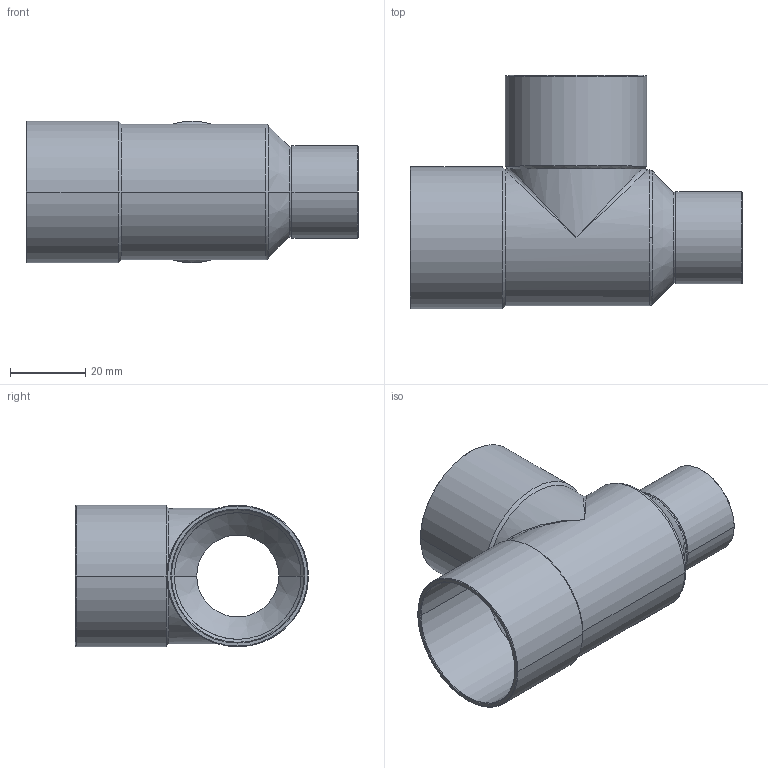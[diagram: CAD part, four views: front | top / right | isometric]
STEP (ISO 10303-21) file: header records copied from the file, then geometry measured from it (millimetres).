
FILE_DESCRIPTION((''),'2;1');
FILE_NAME('G:\Technics\CAD\Bauteile\15130\15130353522.stp','2005-11-03T13:43:00',('boden'),(''),'Autodesk Inventor 8','Autodesk Inventor 8','');
FILE_SCHEMA(('AUTOMOTIVE_DESIGN { 1 0 10303 214 1 1 1 1 }'));
Length unit declared in the file: millimetre
Products named in the file (1): 15130353522
Bounding box: 88 x 61.77 x 37.55 mm (x, y, z)
Volume: 13907.7 mm3; surface area: 23548.7 mm2
Topology: 1 solids, 1 shells, 61 faces, 147 edges, 79 vertices
Faces by surface type: cone 28, cylinder 24, bspline 4, plane 3, torus 2
Entity records: 2282 total; most frequent: CARTESIAN_POINT 878, DIRECTION 309, ORIENTED_EDGE 278, EDGE_CURVE 139, AXIS2_PLACEMENT_3D 130, VERTEX_POINT 79, CIRCLE 64, EDGE_LOOP 64
